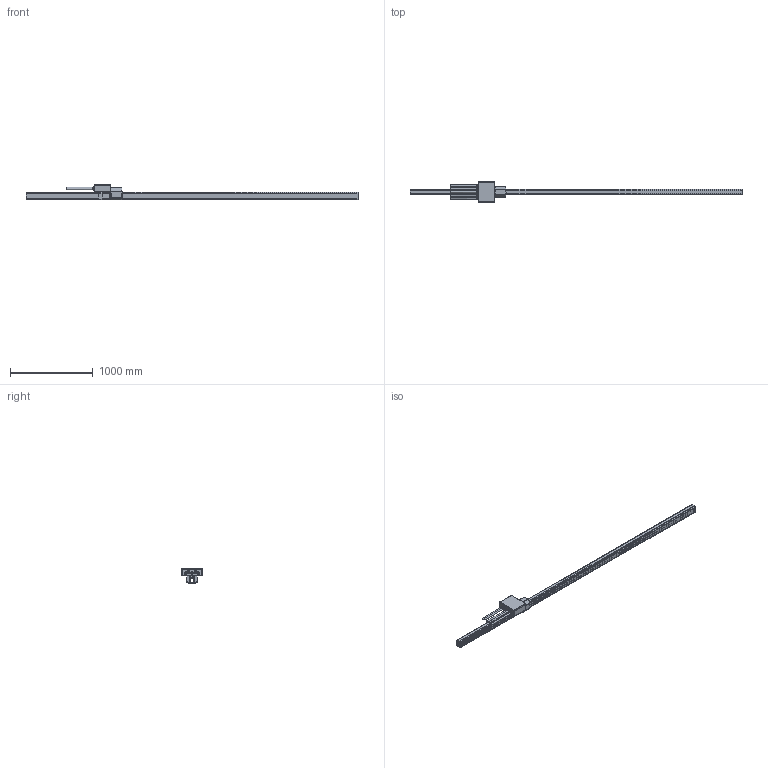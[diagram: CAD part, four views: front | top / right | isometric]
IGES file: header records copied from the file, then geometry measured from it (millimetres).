
Start section: C
Global section: file name: Boite_alim_premontee_4m 5P.igs; native system:  By UGS Corp.; preprocessor: XPlus GENERIC/IGES 3.0; author: Author; organization: Title; date: 20120716.090214; units: millimetre
Bounding box: 4000 x 241 x 191 mm (x, y, z)
Surface area: 3027139 mm2 (no closed solid volume)
Topology: 0 solids, 0 shells, 405 faces, 2393 edges, 2387 vertices
Faces by surface type: bspline 405
